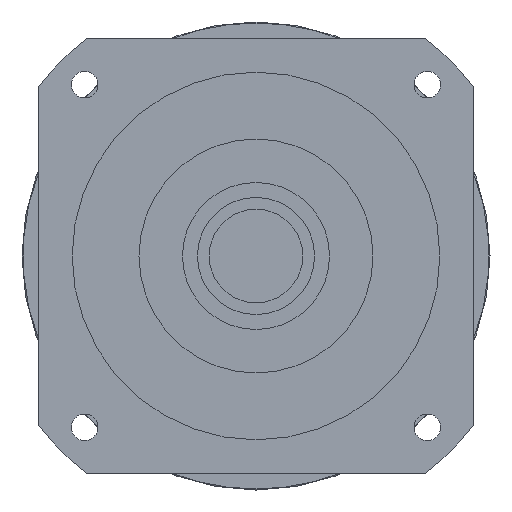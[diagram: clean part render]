
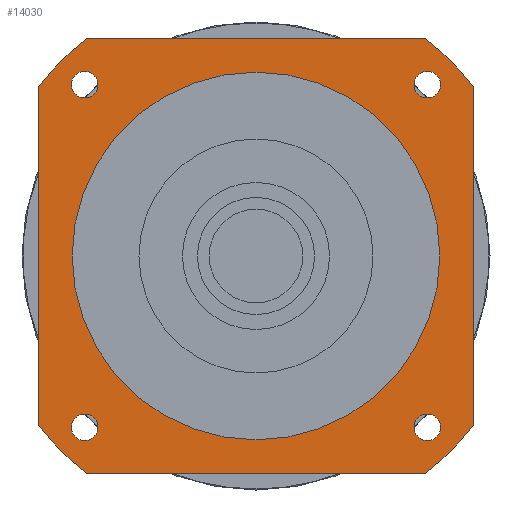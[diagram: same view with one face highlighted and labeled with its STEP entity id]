
A CAD part, left-side view. The second image highlights one B-rep face of the part: STEP entity #14030.
In plain terms, the highlighted planar face has unit normal (-1, 0, 0) as drawn and (0, 0, -1) by its records, which use the part's own axes.
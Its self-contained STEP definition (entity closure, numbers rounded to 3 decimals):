
#12330=CARTESIAN_POINT('',(55.265,-51.265,-87.7));
#12340=VERTEX_POINT('',#12330);
#12370=CARTESIAN_POINT('',(51.265,-51.265,-87.7));
#12380=DIRECTION('',(0.,0.,-1.));
#12390=DIRECTION('',(1.,0.,0.));
#12400=AXIS2_PLACEMENT_3D('',#12370,#12380,#12390);
#12410=CIRCLE('',#12400,4.);
#12420=CARTESIAN_POINT('',(47.265,-51.265,-87.7));
#12430=VERTEX_POINT('',#12420);
#12440=EDGE_CURVE('',#12430,#12340,#12410,.T.);
#12590=CARTESIAN_POINT('',(65.,65.,-87.7));
#12600=DIRECTION('',(0.,0.,-1.));
#12610=DIRECTION('',(1.,0.,0.));
#12620=AXIS2_PLACEMENT_3D('',#12590,#12600,#12610);
#12630=PLANE('',#12620);
#12640=CARTESIAN_POINT('',(-51.265,-51.265,-87.7));
#12650=DIRECTION('',(0.,0.,-1.));
#12660=DIRECTION('',(0.,-1.,0.));
#12670=AXIS2_PLACEMENT_3D('',#12640,#12650,#12660);
#12680=CIRCLE('',#12670,4.);
#12690=CARTESIAN_POINT('',(-51.265,-55.265,-87.7));
#12700=VERTEX_POINT('',#12690);
#12710=CARTESIAN_POINT('',(-51.265,-47.265,-87.7));
#12720=VERTEX_POINT('',#12710);
#12730=EDGE_CURVE('',#12700,#12720,#12680,.T.);
#12740=ORIENTED_EDGE('',*,*,#12730,.F.);
#12750=EDGE_CURVE('',#12720,#12700,#12680,.T.);
#12760=ORIENTED_EDGE('',*,*,#12750,.F.);
#12770=EDGE_LOOP('',(#12760,#12740));
#12780=FACE_BOUND('',#12770,.T.);
#12790=CARTESIAN_POINT('',(-51.265,51.265,-87.7));
#12800=DIRECTION('',(0.,0.,-1.));
#12810=DIRECTION('',(-1.,0.,0.));
#12820=AXIS2_PLACEMENT_3D('',#12790,#12800,#12810);
#12830=CIRCLE('',#12820,4.);
#12840=CARTESIAN_POINT('',(-55.265,51.265,-87.7));
#12850=VERTEX_POINT('',#12840);
#12860=CARTESIAN_POINT('',(-47.265,51.265,-87.7));
#12870=VERTEX_POINT('',#12860);
#12880=EDGE_CURVE('',#12850,#12870,#12830,.T.);
#12890=ORIENTED_EDGE('',*,*,#12880,.F.);
#12900=EDGE_CURVE('',#12870,#12850,#12830,.T.);
#12910=ORIENTED_EDGE('',*,*,#12900,.F.);
#12920=EDGE_LOOP('',(#12910,#12890));
#12930=FACE_BOUND('',#12920,.T.);
#12940=CARTESIAN_POINT('',(51.265,51.265,-87.7));
#12950=DIRECTION('',(0.,0.,-1.));
#12960=DIRECTION('',(0.,1.,0.));
#12970=AXIS2_PLACEMENT_3D('',#12940,#12950,#12960);
#12980=CIRCLE('',#12970,4.);
#12990=CARTESIAN_POINT('',(51.265,55.265,-87.7));
#13000=VERTEX_POINT('',#12990);
#13010=CARTESIAN_POINT('',(51.265,47.265,-87.7));
#13020=VERTEX_POINT('',#13010);
#13030=EDGE_CURVE('',#13000,#13020,#12980,.T.);
#13040=ORIENTED_EDGE('',*,*,#13030,.F.);
#13050=EDGE_CURVE('',#13020,#13000,#12980,.T.);
#13060=ORIENTED_EDGE('',*,*,#13050,.F.);
#13070=EDGE_LOOP('',(#13060,#13040));
#13080=FACE_BOUND('',#13070,.T.);
#13090=CARTESIAN_POINT('',(0.,0.,
-87.7));
#13100=DIRECTION('',(0.,0.,1.));
#13110=DIRECTION('',(0.,1.,0.));
#13120=AXIS2_PLACEMENT_3D('',#13090,#13100,#13110);
#13130=CIRCLE('',#13120,55.);
#13140=CARTESIAN_POINT('',(-55.,0.,-87.7));
#13150=VERTEX_POINT('',#13140);
#13160=CARTESIAN_POINT('',(55.,0.,-87.7));
#13170=VERTEX_POINT('',#13160);
#13180=EDGE_CURVE('',#13150,#13170,#13130,.T.);
#13190=ORIENTED_EDGE('',*,*,#13180,.T.);
#13200=CARTESIAN_POINT('',(0.,55.,-87.7));
#13210=VERTEX_POINT('',#13200);
#13220=EDGE_CURVE('',#13210,#13150,#13130,.T.);
#13230=ORIENTED_EDGE('',*,*,#13220,.T.);
#13240=EDGE_CURVE('',#13170,#13210,#13130,.T.);
#13250=ORIENTED_EDGE('',*,*,#13240,.T.);
#13260=EDGE_LOOP('',(#13250,#13230,#13190));
#13270=FACE_BOUND('',#13260,.T.);
#13280=CARTESIAN_POINT('',(-65.,65.,-87.7));
#13290=DIRECTION('',(1.,0.,0.));
#13300=VECTOR('',#13290,1000.);
#13310=LINE('',#13280,#13300);
#13320=CARTESIAN_POINT('',(-50.806,65.,-87.7));
#13330=VERTEX_POINT('',#13320);
#13340=CARTESIAN_POINT('',(50.806,65.,-87.7));
#13350=VERTEX_POINT('',#13340);
#13360=EDGE_CURVE('',#13330,#13350,#13310,.T.);
#13370=ORIENTED_EDGE('',*,*,#13360,.T.);
#13380=CARTESIAN_POINT('',(0.,0.,
-87.7));
#13390=DIRECTION('',(0.,0.,-1.));
#13400=DIRECTION('',(1.,0.,0.));
#13410=AXIS2_PLACEMENT_3D('',#13380,#13390,#13400);
#13420=CIRCLE('',#13410,82.5);
#13430=CARTESIAN_POINT('',(-65.,50.806,-87.7));
#13440=VERTEX_POINT('',#13430);
#13450=EDGE_CURVE('',#13440,#13330,#13420,.T.);
#13460=ORIENTED_EDGE('',*,*,#13450,.T.);
#13470=CARTESIAN_POINT('',(-65.,-65.,-87.7));
#13480=DIRECTION('',(0.,1.,0.));
#13490=VECTOR('',#13480,1000.);
#13500=LINE('',#13470,#13490);
#13510=CARTESIAN_POINT('',(-65.,-50.806,-87.7));
#13520=VERTEX_POINT('',#13510);
#13530=EDGE_CURVE('',#13520,#13440,#13500,.T.);
#13540=ORIENTED_EDGE('',*,*,#13530,.T.);
#13550=CARTESIAN_POINT('',(0.,0.,
-87.7));
#13560=DIRECTION('',(0.,0.,-1.));
#13570=DIRECTION('',(1.,0.,0.));
#13580=AXIS2_PLACEMENT_3D('',#13550,#13560,#13570);
#13590=CIRCLE('',#13580,82.5);
#13600=CARTESIAN_POINT('',(-50.806,-65.,-87.7));
#13610=VERTEX_POINT('',#13600);
#13620=EDGE_CURVE('',#13610,#13520,#13590,.T.);
#13630=ORIENTED_EDGE('',*,*,#13620,.T.);
#13640=CARTESIAN_POINT('',(65.,-65.,-87.7));
#13650=DIRECTION('',(-1.,0.,0.));
#13660=VECTOR('',#13650,1000.);
#13670=LINE('',#13640,#13660);
#13680=CARTESIAN_POINT('',(50.806,-65.,-87.7));
#13690=VERTEX_POINT('',#13680);
#13700=EDGE_CURVE('',#13690,#13610,#13670,.T.);
#13710=ORIENTED_EDGE('',*,*,#13700,.T.);
#13720=CARTESIAN_POINT('',(0.,0.,
-87.7));
#13730=DIRECTION('',(0.,0.,-1.));
#13740=DIRECTION('',(1.,0.,0.));
#13750=AXIS2_PLACEMENT_3D('',#13720,#13730,#13740);
#13760=CIRCLE('',#13750,82.5);
#13770=CARTESIAN_POINT('',(65.,-50.806,-87.7));
#13780=VERTEX_POINT('',#13770);
#13790=EDGE_CURVE('',#13780,#13690,#13760,.T.);
#13800=ORIENTED_EDGE('',*,*,#13790,.T.);
#13810=CARTESIAN_POINT('',(65.,65.,-87.7));
#13820=DIRECTION('',(0.,-1.,0.));
#13830=VECTOR('',#13820,1000.);
#13840=LINE('',#13810,#13830);
#13850=CARTESIAN_POINT('',(65.,50.806,-87.7));
#13860=VERTEX_POINT('',#13850);
#13870=EDGE_CURVE('',#13860,#13780,#13840,.T.);
#13880=ORIENTED_EDGE('',*,*,#13870,.T.);
#13890=CARTESIAN_POINT('',(0.,0.,
-87.7));
#13900=DIRECTION('',(0.,0.,-1.));
#13910=DIRECTION('',(1.,0.,0.));
#13920=AXIS2_PLACEMENT_3D('',#13890,#13900,#13910);
#13930=CIRCLE('',#13920,82.5);
#13940=EDGE_CURVE('',#13350,#13860,#13930,.T.);
#13950=ORIENTED_EDGE('',*,*,#13940,.T.);
#13960=EDGE_LOOP('',(#13950,#13880,#13800,#13710,#13630,#13540,#13460,
#13370));
#13970=FACE_OUTER_BOUND('',#13960,.T.);
#13980=EDGE_CURVE('',#12340,#12430,#12410,.T.);
#13990=ORIENTED_EDGE('',*,*,#13980,.F.);
#14000=ORIENTED_EDGE('',*,*,#12440,.F.);
#14010=EDGE_LOOP('',(#14000,#13990));
#14020=FACE_BOUND('',#14010,.T.);
#14030=ADVANCED_FACE('',(#12780,#12930,#13080,#13270,#13970,#14020),
#12630,.T.);
